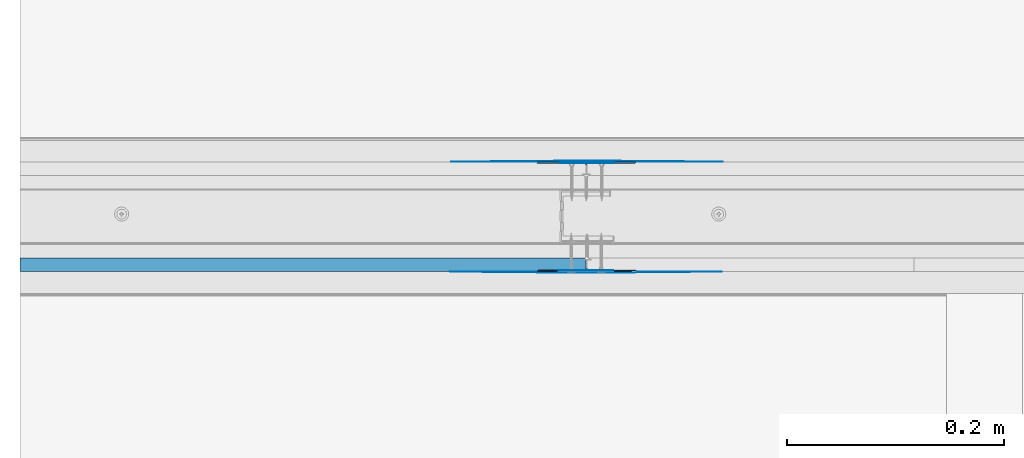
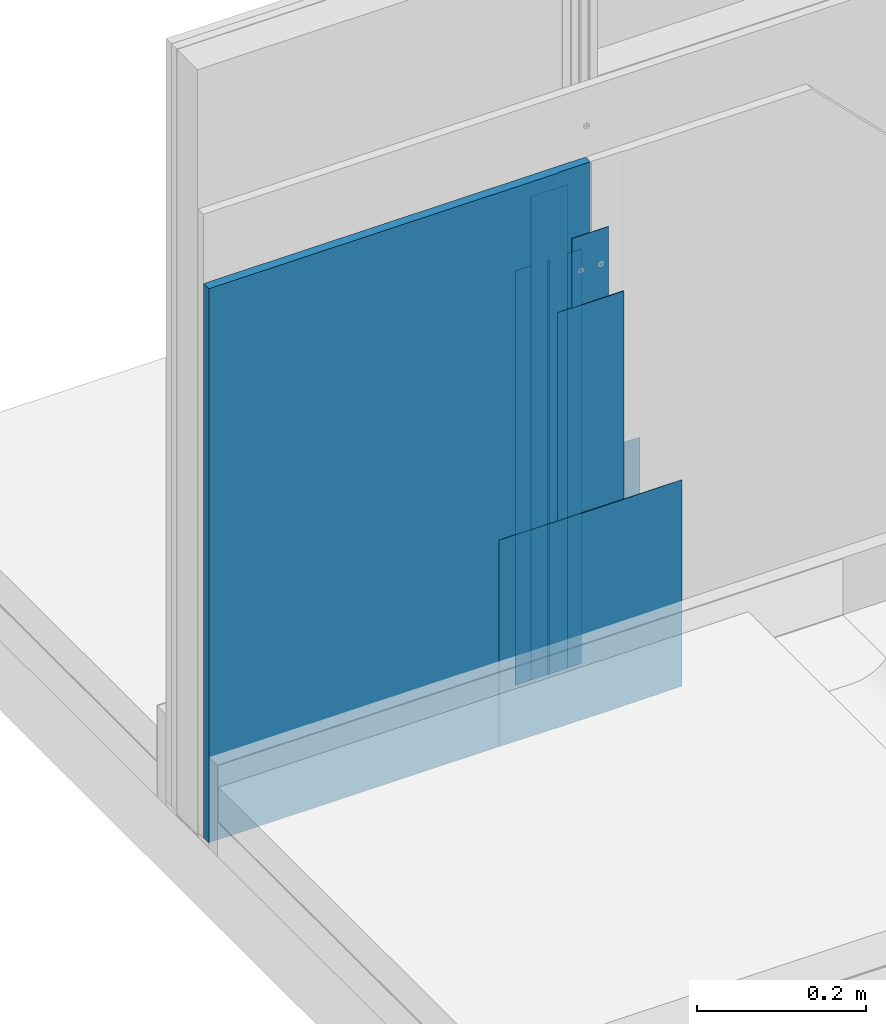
# One storey, part 4 of 37: 7 walls.
"""IFC2X3 building model written with IfcOpenShell, lengths in millimetres."""

from ifc_helpers import new_model, entity, si_unit, converted_unit, direction, frame, origin, origin_with_axes, place, context, project, spatial, faceted_brep, element, save


model = new_model("IFC2X3")

# Units and contexts
model_context = context("Model", 3, precision=1e-05, world=origin(), true_north=direction((0.0, 1.0, 0.0)))
ifc_project = project(units=[si_unit("LENGTHUNIT", "METRE", prefix="MILLI"), si_unit("AREAUNIT", "SQUARE_METRE"), si_unit("VOLUMEUNIT", "CUBIC_METRE"), converted_unit("PLANEANGLEUNIT", "DEGREE", entity("IfcPlaneAngleMeasure", 0.01745), si_unit("PLANEANGLEUNIT", "RADIAN"), dimensions=[0, 0, 0, 0, 0, 0, 0]), si_unit("SOLIDANGLEUNIT", "STERADIAN"), si_unit("MASSUNIT", "GRAM"), si_unit("TIMEUNIT", "SECOND"), si_unit("THERMODYNAMICTEMPERATUREUNIT", "DEGREE_CELSIUS"), si_unit("LUMINOUSINTENSITYUNIT", "LUMEN")], contexts=[model_context])

# Site, building, storey
site_placement = place(None, origin_with_axes())
site = spatial("IfcSite", under=ifc_project, at=site_placement, Name="Default Site", CompositionType="ELEMENT")
building_placement = place(site_placement, origin_with_axes())
building = spatial("IfcBuilding", under=site, at=building_placement, Name="Default Building", CompositionType="ELEMENT")
storey_placement = place(building_placement, origin_with_axes())
storey = spatial("IfcBuildingStorey", under=building, at=storey_placement, Name="Default Building Storey", CompositionType="ELEMENT", Elevation=0.0)

# Walls
wall_1_placement = place(storey_placement, frame((3383.888865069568, -1343.415798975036, 7.548421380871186), z_axis=(0.0, 0.0, 1.0), x_axis=(1.0, 0.0, 0.0)))
element("IfcWall", 1, at=wall_1_placement, inside=storey, Name="Dedykowana masa szpachlowa Rigips - konstrukcyjna", context=model_context, shape_type="Brep", body=[
    faceted_brep([(-737.4838396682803, 3387.6695906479, 600.7999999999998), (-737.4592163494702, 3387.356721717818, 600.7999999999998), (-737.434593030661, 3387.6695906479, 600.7999999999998), (-737.3613293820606, 3387.974755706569, 600.7999999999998), (-737.2412293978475, 3388.264702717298, 600.7999999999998), (-737.07725033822, 3388.532292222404, 600.7999999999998), (-736.8734299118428, 3388.770935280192, 600.7999999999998), (-736.6347868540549, 3388.974755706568, 600.7999999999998), (-736.3671973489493, 3389.138734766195, 600.7999999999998), (-736.0772503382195, 3389.258834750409, 600.7999999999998), (-735.7720852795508, 3389.332098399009, 600.7999999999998), (-735.45921634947, 3389.356721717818, 600.7999999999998), (-692.4592163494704, 3389.356721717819, 600.7999999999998), (-691.4592163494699, 3390.556721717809, 600.7999999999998), (-782.4592163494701, 3390.556721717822, 600.7999999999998), (-782.4592163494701, 3389.356721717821, 600.7999999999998), (-739.4592163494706, 3389.356721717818, 600.7999999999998), (-739.1463474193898, 3389.332098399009, 600.7999999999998), (-738.8411823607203, 3389.258834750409, 600.7999999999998), (-738.5512353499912, 3389.138734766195, 600.7999999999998), (-738.2836458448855, 3388.974755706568, 600.7999999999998), (-738.0450027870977, 3388.770935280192, 600.7999999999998), (-737.8411823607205, 3388.532292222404, 600.7999999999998), (-737.6772033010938, 3388.264702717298, 600.7999999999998), (-737.55710331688, 3387.974755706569, 600.7999999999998), (-691.4592163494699, 3390.556721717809, 2.449996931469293), (-692.4592163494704, 3389.356721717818, 2.449996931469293), (-735.45921634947, 3389.356721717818, 2.449996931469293), (-735.7720852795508, 3389.332098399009, 2.449996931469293), (-736.0772503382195, 3389.258834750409, 2.449996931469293), (-736.3671973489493, 3389.138734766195, 2.449996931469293), (-736.6347868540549, 3388.974755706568, 2.449996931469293), (-736.8734299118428, 3388.770935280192, 2.449996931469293), (-737.07725033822, 3388.532292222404, 2.449996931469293), (-737.2412293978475, 3388.264702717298, 2.449996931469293), (-737.3613293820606, 3387.974755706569, 2.449996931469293), (-737.434593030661, 3387.6695906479, 2.449996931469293), (-737.4592163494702, 3387.356721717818, 2.449996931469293), (-737.4838396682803, 3387.6695906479, 2.449996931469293), (-737.55710331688, 3387.974755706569, 2.449996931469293), (-737.6772033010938, 3388.264702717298, 2.449996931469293), (-737.8411823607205, 3388.532292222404, 2.449996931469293), (-738.0450027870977, 3388.770935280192, 2.449996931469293), (-738.2836458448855, 3388.974755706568, 2.449996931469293), (-738.5512353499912, 3389.138734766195, 2.449996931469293), (-738.8411823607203, 3389.258834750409, 2.449996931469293), (-739.1463474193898, 3389.332098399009, 2.449996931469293), (-739.4592163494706, 3389.356721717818, 2.449996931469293), (-782.4592163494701, 3389.356721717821, 2.449996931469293), (-782.4592163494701, 3390.556721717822, 2.449996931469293)], [[[0, 1, 2, 3, 4, 5, 6, 7, 8, 9, 10, 11, 12, 13, 14, 15, 16, 17, 18, 19, 20, 21, 22, 23, 24]], [[25, 26, 27, 28, 29, 30, 31, 32, 33, 34, 35, 36, 37, 38, 39, 40, 41, 42, 43, 44, 45, 46, 47, 48, 49]], [[26, 12, 11, 27]], [[10, 9, 29, 28]], [[28, 27, 11, 10]], [[8, 30, 29, 9]], [[7, 6, 32, 31]], [[31, 30, 8, 7]], [[5, 4, 34, 33]], [[33, 32, 6, 5]], [[3, 35, 34, 4]], [[2, 1, 37, 36]], [[36, 35, 3, 2]], [[0, 24, 39, 38]], [[38, 37, 1, 0]], [[23, 40, 39, 24]], [[22, 21, 42, 41]], [[41, 40, 23, 22]], [[20, 19, 44, 43]], [[43, 42, 21, 20]], [[18, 45, 44, 19]], [[17, 16, 47, 46]], [[46, 45, 18, 17]], [[47, 16, 15, 48]], [[48, 15, 14, 49]], [[49, 14, 13, 25]], [[25, 13, 12, 26]]]),
])
wall_2_placement = place(storey_placement, frame((1909.970432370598, -1343.415798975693, 7.548421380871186), z_axis=(0.0, 0.0, 1.0), x_axis=(-1.0, -8.049116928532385e-16, 0.0)))
element("IfcWall", 2, at=wall_2_placement, inside=storey, Name="Taśma spoinowa RIGIPS", context=model_context, shape_type="Brep", body=[
    faceted_brep([(-712.4592163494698, -3389.356721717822, 700.7999999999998), (-712.4592163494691, -3389.856721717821, 700.7999999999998), (-762.4592163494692, -3389.856721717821, 700.7999999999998), (-762.45921634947, -3389.35672171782, 700.7999999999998), (-712.4592163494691, -3389.856721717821, 2.449996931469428), (-712.4592163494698, -3389.35672171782, 2.449996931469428), (-762.45921634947, -3389.35672171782, 2.449996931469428), (-762.4592163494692, -3389.856721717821, 2.449996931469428)], [[[0, 1, 2, 3]], [[4, 5, 6, 7]], [[5, 0, 3, 6]], [[6, 3, 2, 7]], [[7, 2, 1, 4]], [[4, 1, 0, 5]]]),
])
wall_3_placement = place(storey_placement, frame((1909.970432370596, -1343.415798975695, 7.548421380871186), z_axis=(0.0, 0.0, 1.0), x_axis=(-1.0, -8.049116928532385e-16, 0.0)))
element("IfcWall", 3, at=wall_3_placement, inside=storey, Name="Dedykowana masa szpachlowa Rigips - wykończeniowa", context=model_context, shape_type="Brep", body=[
    faceted_brep([(-612.459216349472, -3390.556721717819, 2.449996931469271), (-862.459216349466, -3390.556721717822, 2.449996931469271), (-812.4612643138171, -3391.196716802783, 2.449996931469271), (-762.4602403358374, -3391.516720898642, 2.449996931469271), (-712.458192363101, -3391.516720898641, 2.449996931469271), (-662.4571683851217, -3391.19671680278, 2.449996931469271), (-762.4602403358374, -3391.516720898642, 300.8000000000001), (-812.4612643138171, -3391.196716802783, 300.8000000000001), (-862.459216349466, -3390.556721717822, 300.8000000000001), (-612.459216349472, -3390.556721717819, 300.8000000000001), (-662.4571683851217, -3391.19671680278, 300.8000000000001), (-712.458192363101, -3391.516720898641, 300.8000000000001)], [[[0, 1, 2, 3, 4, 5]], [[6, 7, 8, 9, 10, 11]], [[9, 0, 5, 10]], [[10, 5, 4, 11]], [[11, 4, 3, 6]], [[6, 3, 2, 7]], [[1, 8, 7, 2]], [[0, 9, 8, 1]]]),
])
wall_4_placement = place(storey_placement, frame((1909.78321405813, 5336.736799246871, 7.548421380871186), z_axis=(0.0, 0.0, 1.0), x_axis=(-1.0, 0.0, 0.0)))
element("IfcWall", 4, at=wall_4_placement, inside=storey, Name="Dedykowana masa szpachlowa Rigips - konstrukcyjna", context=model_context, shape_type="Brep", body=[
    faceted_brep([(-737.4838396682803, 3387.6695906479, 600.7999999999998), (-737.4592163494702, 3387.356721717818, 600.7999999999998), (-737.434593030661, 3387.6695906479, 600.7999999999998), (-737.3613293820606, 3387.974755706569, 600.7999999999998), (-737.2412293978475, 3388.264702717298, 600.7999999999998), (-737.07725033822, 3388.532292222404, 600.7999999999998), (-736.8734299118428, 3388.770935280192, 600.7999999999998), (-736.6347868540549, 3388.974755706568, 600.7999999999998), (-736.3671973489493, 3389.138734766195, 600.7999999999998), (-736.0772503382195, 3389.258834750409, 600.7999999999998), (-735.7720852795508, 3389.332098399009, 600.7999999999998), (-735.45921634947, 3389.356721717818, 600.7999999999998), (-692.4592163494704, 3389.356721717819, 600.7999999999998), (-691.4592163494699, 3390.556721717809, 600.7999999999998), (-782.4592163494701, 3390.556721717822, 600.7999999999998), (-782.4592163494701, 3389.356721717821, 600.7999999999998), (-739.4592163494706, 3389.356721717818, 600.7999999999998), (-739.1463474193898, 3389.332098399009, 600.7999999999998), (-738.8411823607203, 3389.258834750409, 600.7999999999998), (-738.5512353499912, 3389.138734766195, 600.7999999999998), (-738.2836458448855, 3388.974755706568, 600.7999999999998), (-738.0450027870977, 3388.770935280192, 600.7999999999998), (-737.8411823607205, 3388.532292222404, 600.7999999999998), (-737.6772033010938, 3388.264702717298, 600.7999999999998), (-737.55710331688, 3387.974755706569, 600.7999999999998), (-691.4592163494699, 3390.556721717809, 2.449996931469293), (-692.4592163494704, 3389.356721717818, 2.449996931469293), (-735.45921634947, 3389.356721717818, 2.449996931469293), (-735.7720852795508, 3389.332098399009, 2.449996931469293), (-736.0772503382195, 3389.258834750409, 2.449996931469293), (-736.3671973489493, 3389.138734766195, 2.449996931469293), (-736.6347868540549, 3388.974755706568, 2.449996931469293), (-736.8734299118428, 3388.770935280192, 2.449996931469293), (-737.07725033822, 3388.532292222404, 2.449996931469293), (-737.2412293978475, 3388.264702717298, 2.449996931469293), (-737.3613293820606, 3387.974755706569, 2.449996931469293), (-737.434593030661, 3387.6695906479, 2.449996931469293), (-737.4592163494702, 3387.356721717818, 2.449996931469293), (-737.4838396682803, 3387.6695906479, 2.449996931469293), (-737.55710331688, 3387.974755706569, 2.449996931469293), (-737.6772033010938, 3388.264702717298, 2.449996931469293), (-737.8411823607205, 3388.532292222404, 2.449996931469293), (-738.0450027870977, 3388.770935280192, 2.449996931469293), (-738.2836458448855, 3388.974755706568, 2.449996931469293), (-738.5512353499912, 3389.138734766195, 2.449996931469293), (-738.8411823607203, 3389.258834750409, 2.449996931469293), (-739.1463474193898, 3389.332098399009, 2.449996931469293), (-739.4592163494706, 3389.356721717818, 2.449996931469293), (-782.4592163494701, 3389.356721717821, 2.449996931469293), (-782.4592163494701, 3390.556721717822, 2.449996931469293)], [[[0, 1, 2, 3, 4, 5, 6, 7, 8, 9, 10, 11, 12, 13, 14, 15, 16, 17, 18, 19, 20, 21, 22, 23, 24]], [[25, 26, 27, 28, 29, 30, 31, 32, 33, 34, 35, 36, 37, 38, 39, 40, 41, 42, 43, 44, 45, 46, 47, 48, 49]], [[26, 12, 11, 27]], [[10, 9, 29, 28]], [[28, 27, 11, 10]], [[8, 30, 29, 9]], [[7, 6, 32, 31]], [[31, 30, 8, 7]], [[5, 4, 34, 33]], [[33, 32, 6, 5]], [[3, 35, 34, 4]], [[2, 1, 37, 36]], [[36, 35, 3, 2]], [[0, 24, 39, 38]], [[38, 37, 1, 0]], [[23, 40, 39, 24]], [[22, 21, 42, 41]], [[41, 40, 23, 22]], [[20, 19, 44, 43]], [[43, 42, 21, 20]], [[18, 45, 44, 19]], [[17, 16, 47, 46]], [[46, 45, 18, 17]], [[47, 16, 15, 48]], [[48, 15, 14, 49]], [[49, 14, 13, 25]], [[25, 13, 12, 26]]]),
])
wall_5_placement = place(storey_placement, frame((3383.7016467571, 5336.736799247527, 7.548421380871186), z_axis=(0.0, 0.0, 1.0), x_axis=(1.0, 0.0, 0.0)))
element("IfcWall", 5, at=wall_5_placement, inside=storey, Name="Dedykowana masa szpachlowa Rigips - wykończeniowa", context=model_context, shape_type="Brep", body=[
    faceted_brep([(-612.459216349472, -3390.556721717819, 2.449996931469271), (-862.459216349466, -3390.556721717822, 2.449996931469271), (-812.4612643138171, -3391.196716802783, 2.449996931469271), (-762.4602403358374, -3391.516720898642, 2.449996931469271), (-712.458192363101, -3391.516720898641, 2.449996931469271), (-662.4571683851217, -3391.19671680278, 2.449996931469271), (-762.4602403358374, -3391.516720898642, 300.8000000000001), (-812.4612643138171, -3391.196716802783, 300.8000000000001), (-862.459216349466, -3390.556721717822, 300.8000000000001), (-612.459216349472, -3390.556721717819, 300.8000000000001), (-662.4571683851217, -3391.19671680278, 300.8000000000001), (-712.458192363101, -3391.516720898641, 300.8000000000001)], [[[0, 1, 2, 3, 4, 5]], [[6, 7, 8, 9, 10, 11]], [[9, 0, 5, 10]], [[10, 5, 4, 11]], [[11, 4, 3, 6]], [[6, 3, 2, 7]], [[1, 8, 7, 2]], [[0, 9, 8, 1]]]),
])
wall_6_placement = place(storey_placement, frame((2646.242430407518, 1958.680077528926, 1059.999999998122), z_axis=(0.0, 0.0, 1.0), x_axis=(-1.0, 6.389333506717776e-13, 0.0)))
element("IfcWall", 6, at=wall_6_placement, inside=storey, Name="Płyta gipsowo-kartonowa RIGIPS PRO (4PRO™)", context=model_context, shape_type="Brep", body=[
    faceted_brep([(521.2172969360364, 12.49999999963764, -249.9999999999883), (521.2172969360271, -3.346059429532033e-10, -249.9999999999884), (521.217296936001, -3.313573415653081e-10, -1050.001581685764), (521.2172969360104, 12.49999999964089, -1050.001581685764), (44.99999999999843, 12.50000000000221, -249.9999999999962), (40.99999999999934, 11.50000000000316, -249.9999999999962), (0.9999999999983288, 11.50000000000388, -249.9999999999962), (0.7411809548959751, 11.46592582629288, -249.9999999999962), (0.4999999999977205, 11.3660254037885, -249.9999999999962), (0.29289321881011, 11.20710678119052, -249.9999999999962), (0.1339745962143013, 11.00000000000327, -249.9999999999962), (0.03407417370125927, 10.7588190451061, -249.9999999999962), (-1.443822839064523e-12, 10.50000000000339, -249.9999999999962), (0.0, 0.0, -249.9999999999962), (44.99999999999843, 12.50000000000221, -1050.001581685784), (40.99999999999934, 11.50000000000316, -1050.001581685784), (0.9999999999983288, 11.50000000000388, -1050.001581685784), (0.7411809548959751, 11.46592582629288, -1050.001581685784), (0.4999999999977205, 11.3660254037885, -1050.001581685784), (0.29289321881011, 11.20710678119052, -1050.001581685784), (0.1339745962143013, 11.00000000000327, -1050.001581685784), (0.03407417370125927, 10.7588190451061, -1050.001581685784), (-1.443822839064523e-12, 10.50000000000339, -1050.001581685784), (0.0, 0.0, -1050.001581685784)], [[[0, 1, 2, 3]], [[0, 4, 5, 6, 7, 8, 9, 10, 11, 12, 13, 1]], [[3, 14, 4, 0]], [[5, 4, 14, 15]], [[6, 5, 15, 16]], [[7, 6, 16, 17]], [[8, 7, 17, 18]], [[9, 8, 18, 19]], [[10, 9, 19, 20]], [[11, 10, 20, 21]], [[12, 11, 21, 22]], [[13, 12, 22, 23]], [[2, 1, 13, 23]], [[14, 3, 2, 23, 22, 21, 20, 19, 18, 17, 16, 15]]]),
])
wall_7_placement = place(storey_placement, frame((3383.7016467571, 5336.736799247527, 7.548421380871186), z_axis=(0.0, 0.0, 1.0), x_axis=(1.0, 0.0, 0.0)))
element("IfcWall", 7, at=wall_7_placement, inside=storey, Name="Taśma spoinowa RIGIPS", context=model_context, shape_type="Brep", body=[
    faceted_brep([(-712.4592163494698, -3389.356721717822, 700.7999999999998), (-712.4592163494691, -3389.856721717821, 700.7999999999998), (-762.4592163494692, -3389.856721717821, 700.7999999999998), (-762.45921634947, -3389.35672171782, 700.7999999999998), (-712.4592163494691, -3389.856721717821, 2.449996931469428), (-712.4592163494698, -3389.35672171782, 2.449996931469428), (-762.45921634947, -3389.35672171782, 2.449996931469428), (-762.4592163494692, -3389.856721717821, 2.449996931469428)], [[[0, 1, 2, 3]], [[4, 5, 6, 7]], [[5, 0, 3, 6]], [[6, 3, 2, 7]], [[7, 2, 1, 4]], [[4, 1, 0, 5]]]),
])

save(model, "model.ifc")
